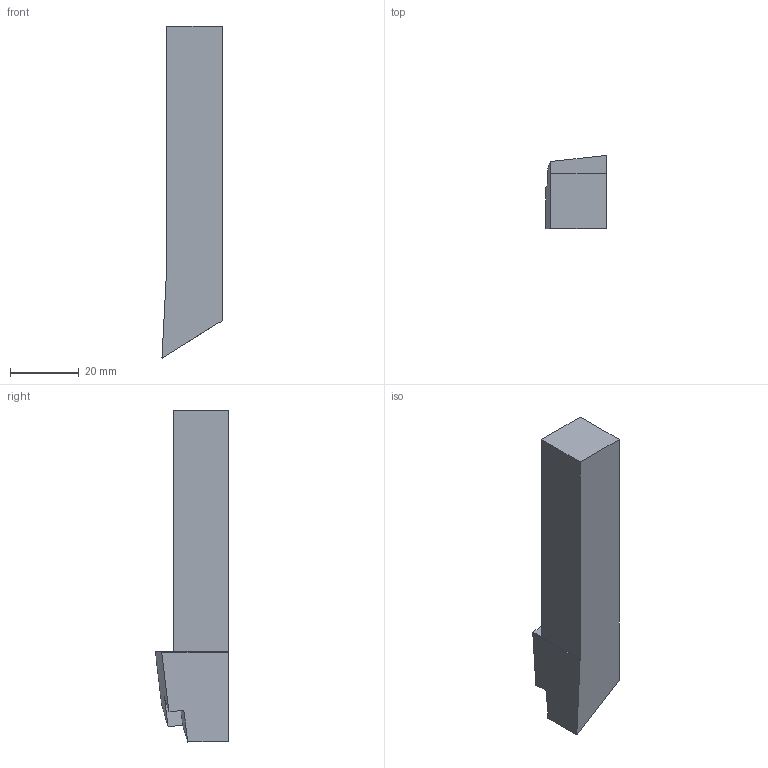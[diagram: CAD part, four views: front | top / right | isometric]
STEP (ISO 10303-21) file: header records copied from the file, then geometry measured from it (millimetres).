
FILE_DESCRIPTION(('no description'),'unknown implementation level');
FILE_NAME('solidHOLlveIUMINW5U2g0AXWMd53bE8_1.STP',' ',('CIMSOURCE GmbH'),('CADClick - KiM GmbH - www.kimweb.de'),'unknown preprocess','ACIS','unknown authorization');
FILE_SCHEMA(('automotive_design'));
Length unit declared in the file: millimetre
Products named in the file (1): NOCUT
Bounding box: 17.45 x 21.25 x 96.5 mm (x, y, z)
Volume: 24263.4 mm3; surface area: 6674.3 mm2
Topology: 1 solids, 1 shells, 27 faces, 71 edges, 47 vertices
Faces by surface type: plane 19, cylinder 8
Entity records: 1681 total; most frequent: DIRECTION 151, CARTESIAN_POINT 150, STYLED_ITEM 146, PRESENTATION_STYLE_ASSIGNMENT 146, COLOUR_RGB 146, ORIENTED_EDGE 142, EDGE_CURVE 71, CURVE_STYLE 71
